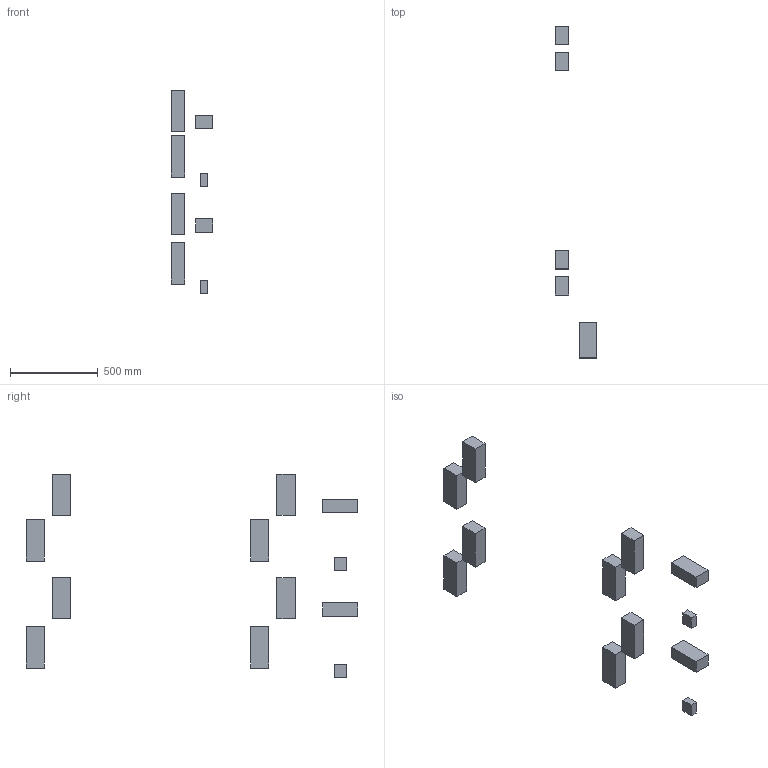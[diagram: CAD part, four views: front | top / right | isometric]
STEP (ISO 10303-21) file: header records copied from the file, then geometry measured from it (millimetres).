
FILE_DESCRIPTION(('Open CASCADE Model'),'2;1');
FILE_NAME('Open CASCADE Shape Model','2026-11-05T12:47:02',('Author'),( 'Open CASCADE'),'Open CASCADE STEP processor 7.9','Open CASCADE 7.9' ,'Unknown');
FILE_SCHEMA(('AUTOMOTIVE_DESIGN { 1 0 10303 214 1 1 1 1 }'));
Length unit declared in the file: millimetre
Products named in the file (13): C06_WATER_SERVICE; A_XV_CS; A_XV_HS; A_XV_CR; A_XV_HR; B_XV_CS; B_XV_HS; B_XV_CR; B_XV_HR; TA_CR; TT_CS; TA_HR; TT_HS
Assembly tree (12 placements, depth 2):
  C06_WATER_SERVICE
    A_XV_CS
    A_XV_HS
    A_XV_CR
    A_XV_HR
    B_XV_CS
    B_XV_HS
    B_XV_CR
    B_XV_HR
    TA_CR
    TT_CS
    TA_HR
    TT_HS
Bounding box: 237.5 x 1891.67 x 1160.8 mm (x, y, z)
Volume: 18580560 mm3; surface area: 1025012 mm2
Topology: 12 solids, 12 shells, 72 faces, 144 edges, 96 vertices
Faces by surface type: plane 72
Entity records: 3904 total; most frequent: CARTESIAN_POINT 613, DIRECTION 602, LINE 432, VECTOR 432, ORIENTED_EDGE 288, PCURVE 288, DEFINITIONAL_REPRESENTATION 288, EDGE_CURVE 144
